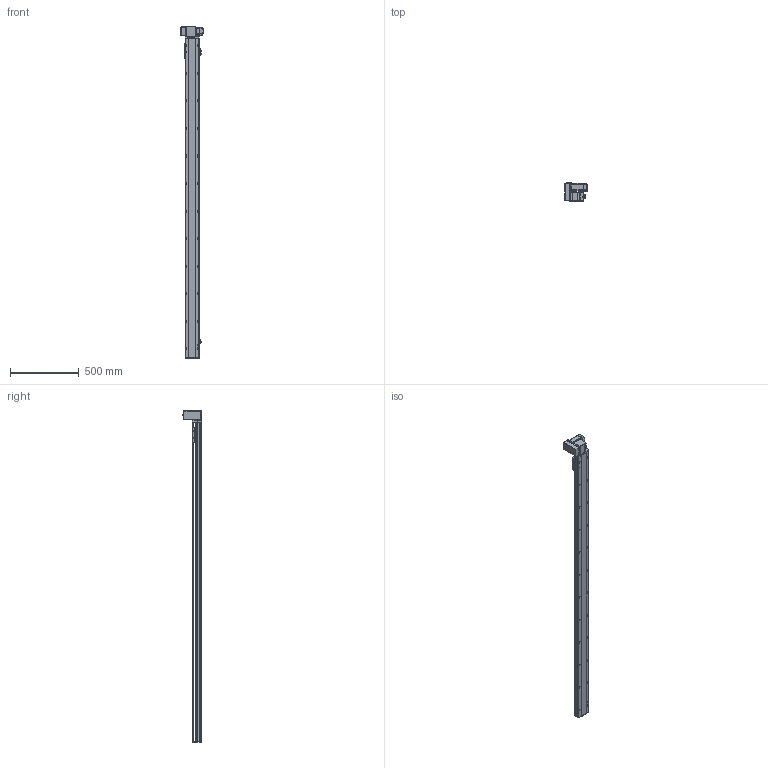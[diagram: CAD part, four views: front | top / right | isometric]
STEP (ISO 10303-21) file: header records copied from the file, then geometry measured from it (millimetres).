
FILE_DESCRIPTION (( 'STEP AP214' ), '1' );
FILE_NAME ('TPT10-L32-2100-LU-T10-C4.STEP', '2023-03-03T03:00:29', ( '' ), ( '' ), 'SwSTEP 2.0', 'SolidWorks 2020', '' );
FILE_SCHEMA (( 'AUTOMOTIVE_DESIGN' ));
Length unit declared in the file: millimetre
Products named in the file (12): 葩璃 TPT10-L-005 賑釱MZ-102A-03^TPT10-L32-LU-T10-C4; 葩璃 TPT10-L-007 々湍釱MZ-169x88^TPT10-L32-LU-T10-C4_L; 葩璃 TPT10-L-009 萇儂啣^TPT10-L32-LU-T10-C4_100W; 葩璃 TPT10-L-002 奻裔MZ-102A-02^TPT10-L32-LU-T10-C4; 葩璃 TPT10-L-001 菁釱MZ-102A-01^TPT10-L32-LU-T10-C4; 葩璃 pm-t65-672^TPT10-L32-LU-T10-C4; 葩璃 侂狟100W^TPT10-L32-LU-T10-C4; hexagon head bolts-full thread gb_GB_FASTENER_BOLT_STBAB A M5X16-N; hex nuts, style 1-grades ab gb_GB_FASTENER_NUT_SNAB1 M3-N; TPT10-L32-2100-LU-T10-C4; 葩璃 侂狟400W^TPT10-L32-LU-T10-C4; hexagon socket head cap screws gb_GB_FASTENER_SCREWS_HSHCS M3X6-N
Assembly tree (23 placements, depth 2):
  TPT10-L32-2100-LU-T10-C4
    葩璃 TPT10-L-001 菁釱MZ-102A-01^TPT10-L32-LU-T10-C4
    葩璃 TPT10-L-002 奻裔MZ-102A-02^TPT10-L32-LU-T10-C4
    葩璃 TPT10-L-007 々湍釱MZ-169x88^TPT10-L32-LU-T10-C4_L
    葩璃 TPT10-L-005 賑釱MZ-102A-03^TPT10-L32-LU-T10-C4
    葩璃 TPT10-L-009 萇儂啣^TPT10-L32-LU-T10-C4_100W
    葩璃 pm-t65-672^TPT10-L32-LU-T10-C4  x3
    葩璃 侂狟100W^TPT10-L32-LU-T10-C4
    葩璃 侂狟400W^TPT10-L32-LU-T10-C4
    hexagon head bolts-full thread gb_GB_FASTENER_BOLT_STBAB A M5X16-N
    hexagon socket head cap screws gb_GB_FASTENER_SCREWS_HSHCS M3X6-N  x6
    hex nuts, style 1-grades ab gb_GB_FASTENER_NUT_SNAB1 M3-N  x6
Bounding box: 160.5 x 134.65 x 2410 mm (x, y, z)
Volume: 7690631.9 mm3; surface area: 1481449.9 mm2
Topology: 31 solids, 31 shells, 2049 faces, 5391 edges, 3437 vertices
Faces by surface type: plane 1086, cylinder 695, cone 222, bspline 34, torus 12
Entity records: 53161 total; most frequent: CARTESIAN_POINT 10568, DIRECTION 8662, ORIENTED_EDGE 8350, EDGE_CURVE 4175, AXIS2_PLACEMENT_3D 3076, VERTEX_POINT 2728, VECTOR 2510, LINE 2510
